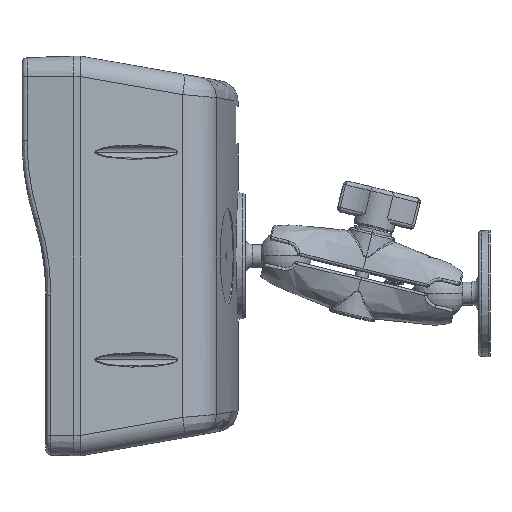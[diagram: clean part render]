
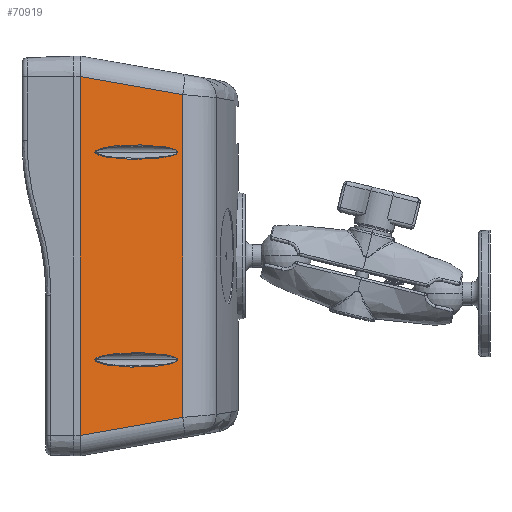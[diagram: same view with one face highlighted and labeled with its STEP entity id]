
A CAD part, left-side view. The second image highlights one B-rep face of the part: STEP entity #70919.
In plain terms, the highlighted planar face has unit normal (-0.985, -0.174, 0) as drawn and (-0.985, 0, 0.174) by its records, which use the part's own axes.
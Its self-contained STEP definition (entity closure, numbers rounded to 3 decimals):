
#212 = EDGE_CURVE ( 'NONE', #38079, #37988, #85518, .T. ) ;
#2999 = VERTEX_POINT ( 'NONE', #24488 ) ;
#3745 = DIRECTION ( 'NONE',  ( 0.171, 0.171, 0.97 ) ) ;
#3859 = DIRECTION ( 'NONE',  ( 0., -1., 0. ) ) ;
#4410 = ORIENTED_EDGE ( 'NONE', *, *, #22295, .T. ) ;
#4690 = ORIENTED_EDGE ( 'NONE', *, *, #16510, .F. ) ;
#4878 = CARTESIAN_POINT ( 'NONE',  ( -134.167, 49.422, 256.132 ) ) ;
#5474 = CARTESIAN_POINT ( 'NONE',  ( -127.167, 56.422, 295.831 ) ) ;
#6648 = LINE ( 'NONE', #83372, #36526 ) ;
#7404 = LINE ( 'NONE', #30077, #46684 ) ;
#9855 = EDGE_CURVE ( 'NONE', #72714, #79069, #64630, .T. ) ;
#10103 = CARTESIAN_POINT ( 'NONE',  ( -127.167, -43.578, 295.831 ) ) ;
#10947 = ORIENTED_EDGE ( 'NONE', *, *, #32446, .T. ) ;
#12217 = CARTESIAN_POINT ( 'NONE',  ( -127.167, 63.422, 295.831 ) ) ;
#12598 =( BOUNDED_CURVE ( )  B_SPLINE_CURVE ( 3, ( #37487, #37763, #4878, #64735 ),
 .UNSPECIFIED., .F., .F. ) 
 B_SPLINE_CURVE_WITH_KNOTS ( ( 4, 4 ),
 ( 3.142, 6.283 ),
 .UNSPECIFIED. ) 
 CURVE ( )  GEOMETRIC_REPRESENTATION_ITEM ( )  RATIONAL_B_SPLINE_CURVE ( ( 1., 0.333, 0.333, 1. ) ) 
 REPRESENTATION_ITEM ( '' )  );
#15977 = CARTESIAN_POINT ( 'NONE',  ( -134.167, -50.578, 256.132 ) ) ;
#16164 = CARTESIAN_POINT ( 'NONE',  ( -135.713, 93.112, 247.365 ) ) ;
#16510 = EDGE_CURVE ( 'NONE', #34411, #78440, #36113, .T. ) ;
#17862 = ORIENTED_EDGE ( 'NONE', *, *, #47833, .T. ) ;
#18302 = CARTESIAN_POINT ( 'NONE',  ( -134.167, 56.422, 256.132 ) ) ;
#18883 = CARTESIAN_POINT ( 'NONE',  ( -134.167, 63.422, 256.132 ) ) ;
#19047 = CARTESIAN_POINT ( 'NONE',  ( -135.424, 102.672, 249. ) ) ;
#19648 = CARTESIAN_POINT ( 'NONE',  ( -134.167, -43.578, 256.132 ) ) ;
#19926 = CARTESIAN_POINT ( 'NONE',  ( -134.167, -36.578, 256.132 ) ) ;
#20002 = CARTESIAN_POINT ( 'NONE',  ( -134.167, 56.422, 256.132 ) ) ;
#21614 = LINE ( 'NONE', #16164, #30742 ) ;
#22295 = EDGE_CURVE ( 'NONE', #39976, #67345, #12598, .T. ) ;
#22872 = ORIENTED_EDGE ( 'NONE', *, *, #49588, .T. ) ;
#24488 = CARTESIAN_POINT ( 'NONE',  ( -135.424, 92.672, 249. ) ) ;
#25189 = VERTEX_POINT ( 'NONE', #75661 ) ;
#25704 = CARTESIAN_POINT ( 'NONE',  ( -127.167, -43.578, 295.831 ) ) ;
#27023 = LINE ( 'NONE', #84757, #31131 ) ;
#28708 = ORIENTED_EDGE ( 'NONE', *, *, #80235, .T. ) ;
#30077 = CARTESIAN_POINT ( 'NONE',  ( -127.003, -71.559, 296.76 ) ) ;
#30742 = VECTOR ( 'NONE', #43715, 1000. ) ;
#31131 = VECTOR ( 'NONE', #58443, 1000. ) ;
#31213 = EDGE_LOOP ( 'NONE', ( #10947, #4410 ) ) ;
#32342 = EDGE_CURVE ( 'NONE', #79069, #78440, #7404, .T. ) ;
#32446 = EDGE_CURVE ( 'NONE', #67345, #39976, #44084, .T. ) ;
#34411 = VERTEX_POINT ( 'NONE', #58708 ) ;
#36113 = LINE ( 'NONE', #69474, #69309 ) ;
#36526 = VECTOR ( 'NONE', #3859, 1000. ) ;
#36828 = EDGE_LOOP ( 'NONE', ( #80994, #83420 ) ) ;
#37487 = CARTESIAN_POINT ( 'NONE',  ( -127.167, 56.422, 295.831 ) ) ;
#37763 = CARTESIAN_POINT ( 'NONE',  ( -127.167, 49.422, 295.831 ) ) ;
#37988 = VERTEX_POINT ( 'NONE', #10103 ) ;
#38079 = VERTEX_POINT ( 'NONE', #78303 ) ;
#38087 = CARTESIAN_POINT ( 'NONE',  ( -127.167, 56.422, 295.831 ) ) ;
#39120 = DIRECTION ( 'NONE',  ( -0.174, 0., -0.985 ) ) ;
#39976 = VERTEX_POINT ( 'NONE', #5474 ) ;
#43715 = DIRECTION ( 'NONE',  ( -0.171, 0.171, -0.97 ) ) ;
#44084 =( BOUNDED_CURVE ( )  B_SPLINE_CURVE ( 3, ( #18302, #18883, #12217, #38087 ),
 .UNSPECIFIED., .F., .F. ) 
 B_SPLINE_CURVE_WITH_KNOTS ( ( 4, 4 ),
 ( 0., 3.142 ),
 .UNSPECIFIED. ) 
 CURVE ( )  GEOMETRIC_REPRESENTATION_ITEM ( )  RATIONAL_B_SPLINE_CURVE ( ( 1., 0.333, 0.333, 1. ) ) 
 REPRESENTATION_ITEM ( '' )  );
#46598 = DIRECTION ( 'NONE',  ( 0., -1., 0. ) ) ;
#46684 = VECTOR ( 'NONE', #3745, 1000. ) ;
#46873 = FACE_BOUND ( 'NONE', #36828, .T. ) ;
#47833 = EDGE_CURVE ( 'NONE', #34411, #25189, #21614, .T. ) ;
#48262 = CARTESIAN_POINT ( 'NONE',  ( -127.167, -43.578, 295.831 ) ) ;
#48907 = ORIENTED_EDGE ( 'NONE', *, *, #32342, .T. ) ;
#49097 = VECTOR ( 'NONE', #46598, 1000. ) ;
#49515 = DIRECTION ( 'NONE',  ( 0., -1., 0. ) ) ;
#49588 = EDGE_CURVE ( 'NONE', #25189, #2999, #6648, .T. ) ;
#50551 = CARTESIAN_POINT ( 'NONE',  ( -126.715, -71.27, 298.395 ) ) ;
#58443 = DIRECTION ( 'NONE',  ( 0., -1., 0. ) ) ;
#58708 = CARTESIAN_POINT ( 'NONE',  ( -126.715, 84.114, 298.395 ) ) ;
#59380 = PLANE ( 'NONE',  #65991 ) ;
#62900 = CARTESIAN_POINT ( 'NONE',  ( -135.424, -79.828, 249. ) ) ;
#64630 = LINE ( 'NONE', #79303, #49097 ) ;
#64735 = CARTESIAN_POINT ( 'NONE',  ( -134.167, 56.422, 256.132 ) ) ;
#65226 = DIRECTION ( 'NONE',  ( 0.985, 0., -0.174 ) ) ;
#65603 = FACE_OUTER_BOUND ( 'NONE', #71584, .T. ) ;
#65826 = CARTESIAN_POINT ( 'NONE',  ( -127.167, -36.578, 295.831 ) ) ;
#65991 = AXIS2_PLACEMENT_3D ( 'NONE', #19047, #65226, #39120 ) ;
#66009 = ORIENTED_EDGE ( 'NONE', *, *, #9855, .T. ) ;
#67345 = VERTEX_POINT ( 'NONE', #20002 ) ;
#69309 = VECTOR ( 'NONE', #49515, 1000. ) ;
#69474 = CARTESIAN_POINT ( 'NONE',  ( -126.715, 102.672, 298.395 ) ) ;
#69615 = EDGE_CURVE ( 'NONE', #37988, #38079, #71175, .T. ) ;
#70919 = ADVANCED_FACE ( 'NONE', ( #46873, #76975, #65603 ), #59380, .F. ) ;
#71175 =( BOUNDED_CURVE ( )  B_SPLINE_CURVE ( 3, ( #48262, #80065, #15977, #75722 ),
 .UNSPECIFIED., .F., .F. ) 
 B_SPLINE_CURVE_WITH_KNOTS ( ( 4, 4 ),
 ( 3.142, 6.283 ),
 .UNSPECIFIED. ) 
 CURVE ( )  GEOMETRIC_REPRESENTATION_ITEM ( )  RATIONAL_B_SPLINE_CURVE ( ( 1., 0.333, 0.333, 1. ) ) 
 REPRESENTATION_ITEM ( '' )  );
#71584 = EDGE_LOOP ( 'NONE', ( #66009, #48907, #4690, #17862, #22872, #28708 ) ) ;
#72714 = VERTEX_POINT ( 'NONE', #62900 ) ;
#75661 = CARTESIAN_POINT ( 'NONE',  ( -135.424, 92.824, 249. ) ) ;
#75722 = CARTESIAN_POINT ( 'NONE',  ( -134.167, -43.578, 256.132 ) ) ;
#76975 = FACE_BOUND ( 'NONE', #31213, .T. ) ;
#77938 = CARTESIAN_POINT ( 'NONE',  ( -135.424, -79.98, 249. ) ) ;
#78303 = CARTESIAN_POINT ( 'NONE',  ( -134.167, -43.578, 256.132 ) ) ;
#78440 = VERTEX_POINT ( 'NONE', #50551 ) ;
#79069 = VERTEX_POINT ( 'NONE', #77938 ) ;
#79303 = CARTESIAN_POINT ( 'NONE',  ( -135.424, 102.672, 249. ) ) ;
#80065 = CARTESIAN_POINT ( 'NONE',  ( -127.167, -50.578, 295.831 ) ) ;
#80235 = EDGE_CURVE ( 'NONE', #2999, #72714, #27023, .T. ) ;
#80994 = ORIENTED_EDGE ( 'NONE', *, *, #212, .T. ) ;
#83372 = CARTESIAN_POINT ( 'NONE',  ( -135.424, 102.672, 249. ) ) ;
#83420 = ORIENTED_EDGE ( 'NONE', *, *, #69615, .T. ) ;
#84757 = CARTESIAN_POINT ( 'NONE',  ( -135.424, 92.672, 249. ) ) ;
#85518 =( BOUNDED_CURVE ( )  B_SPLINE_CURVE ( 3, ( #19648, #19926, #65826, #25704 ),
 .UNSPECIFIED., .F., .F. ) 
 B_SPLINE_CURVE_WITH_KNOTS ( ( 4, 4 ),
 ( 0., 3.142 ),
 .UNSPECIFIED. ) 
 CURVE ( )  GEOMETRIC_REPRESENTATION_ITEM ( )  RATIONAL_B_SPLINE_CURVE ( ( 1., 0.333, 0.333, 1. ) ) 
 REPRESENTATION_ITEM ( '' )  );
